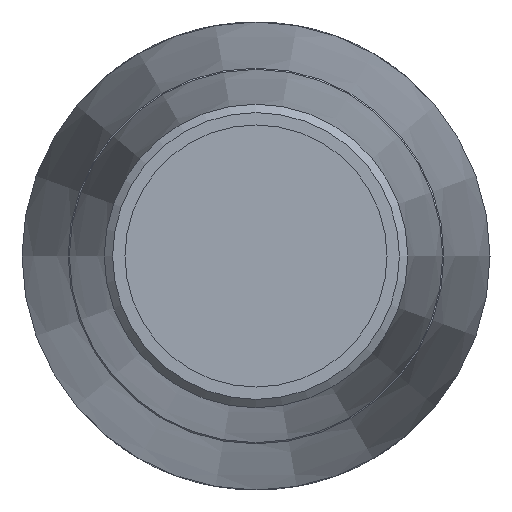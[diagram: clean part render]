
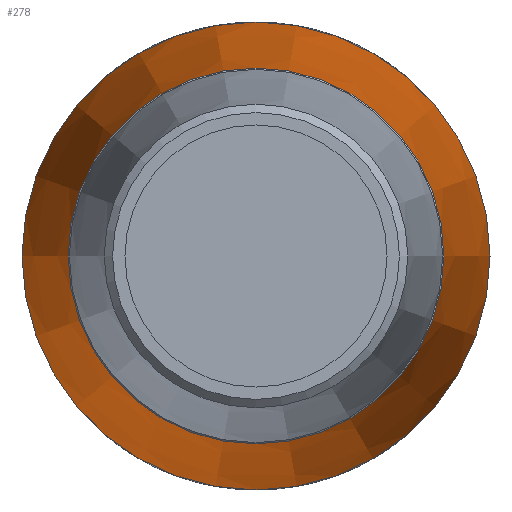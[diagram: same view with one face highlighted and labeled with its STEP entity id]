
A CAD part, left-side view. The second image highlights one B-rep face of the part: STEP entity #278.
In plain terms, the highlighted conical face has half-angle 5 degrees and reference radius 13.5 mm.
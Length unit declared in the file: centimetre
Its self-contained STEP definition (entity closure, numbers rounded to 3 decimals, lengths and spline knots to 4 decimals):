
#46=FACE_BOUND('',#86,.T.);
#63=FACE_OUTER_BOUND('',#85,.T.);
#85=EDGE_LOOP('',(#191));
#86=EDGE_LOOP('',(#192));
#121=CIRCLE('',#301,1.2044);
#123=CIRCLE('',#304,1.5);
#137=VERTEX_POINT('',#423);
#139=VERTEX_POINT('',#428);
#161=EDGE_CURVE('',#137,#137,#121,.T.);
#163=EDGE_CURVE('',#139,#139,#123,.T.);
#191=ORIENTED_EDGE('',*,*,#163,.T.);
#192=ORIENTED_EDGE('',*,*,#161,.F.);
#246=CONICAL_SURFACE('',#303,1.35,5.);
#278=ADVANCED_FACE('',(#63,#46),#246,.T.);
#301=AXIS2_PLACEMENT_3D('',#424,#341,#342);
#303=AXIS2_PLACEMENT_3D('',#427,#345,#346);
#304=AXIS2_PLACEMENT_3D('',#429,#347,#348);
#341=DIRECTION('center_axis',(-1.,0.,0.));
#342=DIRECTION('ref_axis',(0.,1.,0.));
#345=DIRECTION('center_axis',(1.,0.,0.));
#346=DIRECTION('ref_axis',(0.,-1.,0.));
#347=DIRECTION('center_axis',(-1.,0.,0.));
#348=DIRECTION('ref_axis',(0.,0.,-1.));
#423=CARTESIAN_POINT('',(-8.0502,-1.2044,0.));
#424=CARTESIAN_POINT('Origin',(-8.0502,0.,
0.));
#427=CARTESIAN_POINT('Origin',(-6.3855,0.,0.));
#428=CARTESIAN_POINT('',(-4.671,-1.5,0.));
#429=CARTESIAN_POINT('Origin',(-4.671,0.,0.));
